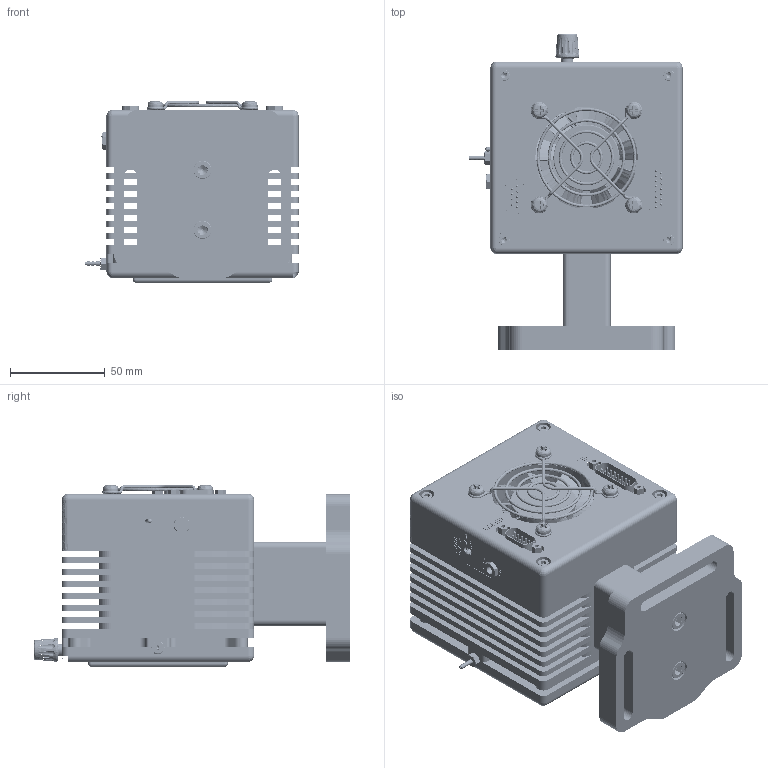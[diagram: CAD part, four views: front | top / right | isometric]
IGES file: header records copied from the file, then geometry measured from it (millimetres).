
Start section: SolidWorks IGES file using analytic representation for surfaces
Global section: file name: C:\Dropbox\Mechanical Engr\Development Projects (P#)\P8 - 242 C-Mount LaserMount\650-1016, Customer 1.IGS; native system: SolidWorks 2010; preprocessor: SolidWorks 2010; author: mhanson; date: 130927.131930; units: inch
Bounding box: 112.73 x 167.18 x 95.96 mm (x, y, z)
Surface area: 227515.8 mm2 (no closed solid volume)
Topology: 0 solids, 0 shells, 3954 faces, 51077 edges, 51034 vertices
Faces by surface type: bspline 2636, revolution 1318
